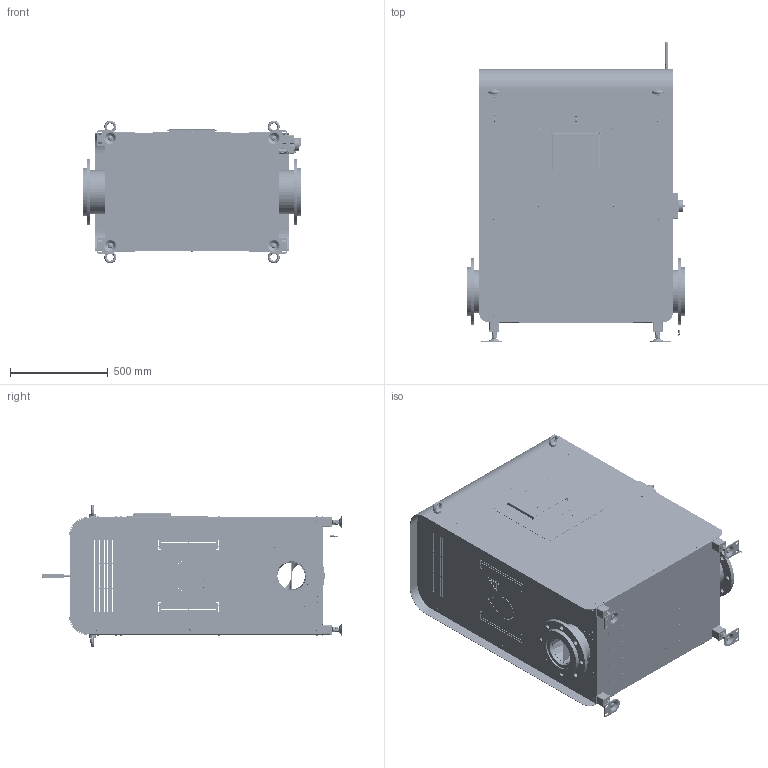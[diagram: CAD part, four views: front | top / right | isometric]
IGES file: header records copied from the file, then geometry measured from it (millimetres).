
Global section: file name: H Pro 100_V1.1_Simplifier; native system: Autodesk Inventor 2024; preprocessor: unknown; author: Massimo Maselli; date: 20231108.162248; units: millimetre
Bounding box: 1116.4 x 1538.49 x 730 mm (x, y, z)
Volume: 31351837 mm3; surface area: 16099604.4 mm2
Topology: 124 solids, 124 shells, 7044 faces, 19096 edges, 12923 vertices
Faces by surface type: bspline 7044
